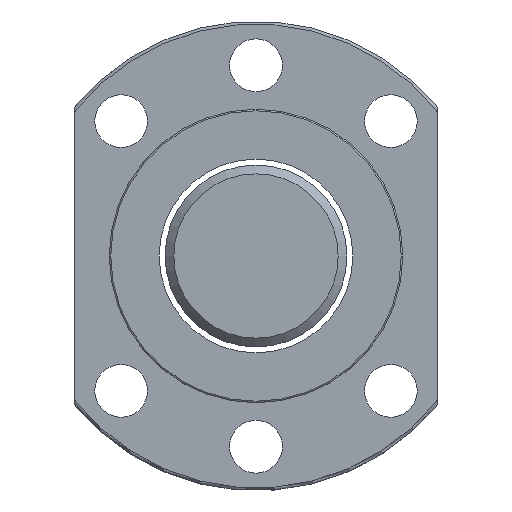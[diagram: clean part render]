
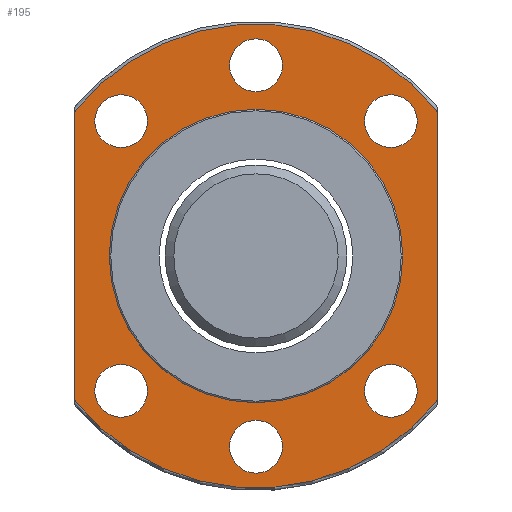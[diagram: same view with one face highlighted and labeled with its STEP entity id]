
A CAD part, left-side view. The second image highlights one B-rep face of the part: STEP entity #195.
In plain terms, the highlighted planar face has unit normal (-1, 0, 0).
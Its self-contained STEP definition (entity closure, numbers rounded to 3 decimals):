
#103=LINE('',#1255,#111);
#104=LINE('',#1256,#112);
#111=VECTOR('',#903,1.);
#112=VECTOR('',#904,1.);
#145=PLANE('',#770);
#167=FACE_OUTER_BOUND('',#347,.T.);
#195=ADVANCED_FACE('',(#167,#266,#267,#268,#269,#270,#271,#272),#145,.T.);
#266=FACE_BOUND('',#348,.T.);
#267=FACE_BOUND('',#349,.T.);
#268=FACE_BOUND('',#350,.T.);
#269=FACE_BOUND('',#351,.T.);
#270=FACE_BOUND('',#352,.T.);
#271=FACE_BOUND('',#353,.T.);
#272=FACE_BOUND('',#354,.T.);
#347=EDGE_LOOP('',(#464,#465,#466,#467));
#348=EDGE_LOOP('',(#468));
#349=EDGE_LOOP('',(#469));
#350=EDGE_LOOP('',(#470));
#351=EDGE_LOOP('',(#471));
#352=EDGE_LOOP('',(#472));
#353=EDGE_LOOP('',(#473));
#354=EDGE_LOOP('',(#474));
#464=ORIENTED_EDGE('',*,*,#645,.F.);
#465=ORIENTED_EDGE('',*,*,#625,.F.);
#466=ORIENTED_EDGE('',*,*,#646,.T.);
#467=ORIENTED_EDGE('',*,*,#643,.F.);
#468=ORIENTED_EDGE('',*,*,#647,.T.);
#469=ORIENTED_EDGE('',*,*,#648,.F.);
#470=ORIENTED_EDGE('',*,*,#649,.F.);
#471=ORIENTED_EDGE('',*,*,#650,.F.);
#472=ORIENTED_EDGE('',*,*,#651,.F.);
#473=ORIENTED_EDGE('',*,*,#652,.F.);
#474=ORIENTED_EDGE('',*,*,#653,.F.);
#563=VERTEX_POINT('',#1122);
#564=VERTEX_POINT('',#1142);
#578=VERTEX_POINT('',#1232);
#579=VERTEX_POINT('',#1234);
#580=VERTEX_POINT('',#1258);
#581=VERTEX_POINT('',#1260);
#582=VERTEX_POINT('',#1262);
#583=VERTEX_POINT('',#1264);
#584=VERTEX_POINT('',#1266);
#585=VERTEX_POINT('',#1268);
#586=VERTEX_POINT('',#1270);
#625=EDGE_CURVE('',#564,#563,#686,.T.);
#643=EDGE_CURVE('',#578,#579,#697,.T.);
#645=EDGE_CURVE('',#563,#578,#103,.T.);
#646=EDGE_CURVE('',#564,#579,#104,.T.);
#647=EDGE_CURVE('',#580,#580,#698,.T.);
#648=EDGE_CURVE('',#581,#581,#699,.T.);
#649=EDGE_CURVE('',#582,#582,#700,.T.);
#650=EDGE_CURVE('',#583,#583,#701,.T.);
#651=EDGE_CURVE('',#584,#584,#702,.T.);
#652=EDGE_CURVE('',#585,#585,#703,.T.);
#653=EDGE_CURVE('',#586,#586,#704,.T.);
#686=CIRCLE('',#746,39.5);
#697=CIRCLE('',#761,39.5);
#698=CIRCLE('',#763,25.);
#699=CIRCLE('',#764,4.5);
#700=CIRCLE('',#765,4.5);
#701=CIRCLE('',#766,4.5);
#702=CIRCLE('',#767,4.5);
#703=CIRCLE('',#768,4.5);
#704=CIRCLE('',#769,4.5);
#746=AXIS2_PLACEMENT_3D('',#1143,#865,#866);
#761=AXIS2_PLACEMENT_3D('',#1233,#899,#900);
#763=AXIS2_PLACEMENT_3D('',#1257,#905,#906);
#764=AXIS2_PLACEMENT_3D('',#1259,#907,#908);
#765=AXIS2_PLACEMENT_3D('',#1261,#909,#910);
#766=AXIS2_PLACEMENT_3D('',#1263,#911,#912);
#767=AXIS2_PLACEMENT_3D('',#1265,#913,#914);
#768=AXIS2_PLACEMENT_3D('',#1267,#915,#916);
#769=AXIS2_PLACEMENT_3D('',#1269,#917,#918);
#770=AXIS2_PLACEMENT_3D('',#1271,#919,#920);
#865=DIRECTION('',(1.,0.,0.));
#866=DIRECTION('',(0.,1.,0.));
#899=DIRECTION('',(1.,0.,0.));
#900=DIRECTION('',(0.,1.,0.));
#903=DIRECTION('',(0.,0.,1.));
#904=DIRECTION('',(0.,0.,1.));
#905=DIRECTION('',(1.,0.,0.));
#906=DIRECTION('',(0.,1.,0.));
#907=DIRECTION('',(-1.,0.,0.));
#908=DIRECTION('',(0.,-1.,0.));
#909=DIRECTION('',(-1.,0.,0.));
#910=DIRECTION('',(0.,-1.,0.));
#911=DIRECTION('',(-1.,0.,0.));
#912=DIRECTION('',(0.,-1.,0.));
#913=DIRECTION('',(-1.,0.,0.));
#914=DIRECTION('',(0.,-1.,0.));
#915=DIRECTION('',(-1.,0.,0.));
#916=DIRECTION('',(0.,-1.,0.));
#917=DIRECTION('',(-1.,0.,0.));
#918=DIRECTION('',(0.,-1.,0.));
#919=DIRECTION('',(-1.,0.,0.));
#920=DIRECTION('',(0.,-1.,0.));
#1122=CARTESIAN_POINT('',(-27.,31.,-24.48));
#1142=CARTESIAN_POINT('',(-27.,-31.,-24.48));
#1143=CARTESIAN_POINT('',(-27.,0.,0.));
#1232=CARTESIAN_POINT('',(-27.,31.,24.48));
#1233=CARTESIAN_POINT('',(-27.,0.,0.));
#1234=CARTESIAN_POINT('',(-27.,-31.,24.48));
#1255=CARTESIAN_POINT('',(-27.,31.,0.));
#1256=CARTESIAN_POINT('',(-27.,-31.,0.));
#1257=CARTESIAN_POINT('',(-27.,0.,0.));
#1258=CARTESIAN_POINT('',(-27.,25.,0.));
#1259=CARTESIAN_POINT('',(-27.,22.981,22.981));
#1260=CARTESIAN_POINT('',(-27.,18.481,22.981));
#1261=CARTESIAN_POINT('',(-27.,-22.981,22.981));
#1262=CARTESIAN_POINT('',(-27.,-27.481,22.981));
#1263=CARTESIAN_POINT('',(-27.,-22.981,-22.981));
#1264=CARTESIAN_POINT('',(-27.,-27.481,-22.981));
#1265=CARTESIAN_POINT('',(-27.,22.981,-22.981));
#1266=CARTESIAN_POINT('',(-27.,18.481,-22.981));
#1267=CARTESIAN_POINT('',(-27.,0.,32.5));
#1268=CARTESIAN_POINT('',(-27.,-4.5,32.5));
#1269=CARTESIAN_POINT('',(-27.,0.,-32.5));
#1270=CARTESIAN_POINT('',(-27.,-4.5,-32.5));
#1271=CARTESIAN_POINT('',(-27.,32.25,0.));
